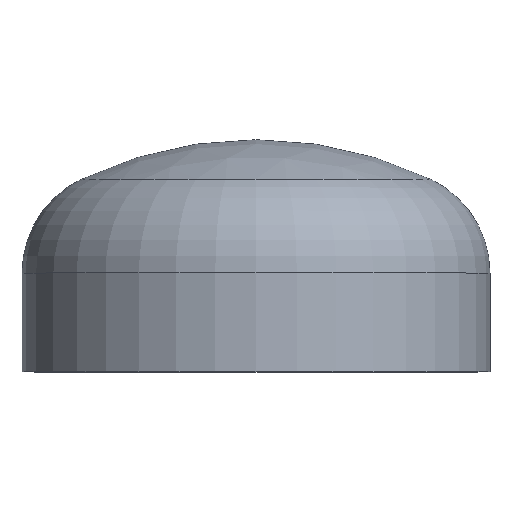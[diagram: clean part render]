
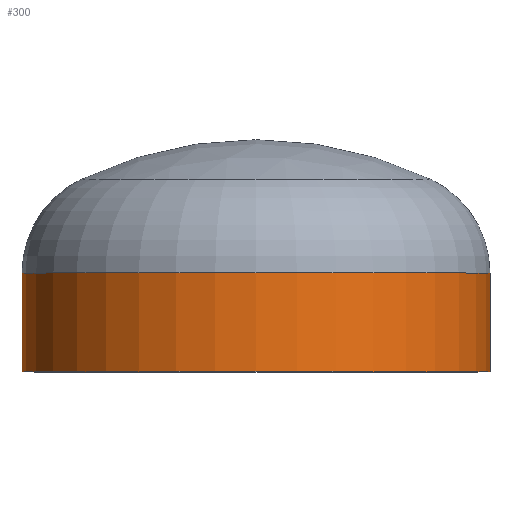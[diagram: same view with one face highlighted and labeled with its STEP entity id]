
A CAD part, top view. The second image highlights one B-rep face of the part: STEP entity #300.
In plain terms, the highlighted cylindrical face has radius 177.8 mm (diameter 355.6 mm), a partial arc.
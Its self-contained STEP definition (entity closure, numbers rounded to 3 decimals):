
#12 = LINE ( 'NONE', #268, #293 ) ;
#18 = AXIS2_PLACEMENT_3D ( 'NONE', #28, #196, #35 ) ;
#28 = CARTESIAN_POINT ( 'NONE',  ( 0., 0., 0. ) ) ;
#35 = DIRECTION ( 'NONE',  ( 1., 0., 0. ) ) ;
#45 = ORIENTED_EDGE ( 'NONE', *, *, #395, .F. ) ;
#51 = ORIENTED_EDGE ( 'NONE', *, *, #102, .T. ) ;
#60 = CARTESIAN_POINT ( 'NONE',  ( 177.8, 75., 0. ) ) ;
#83 = AXIS2_PLACEMENT_3D ( 'NONE', #330, #329, #327 ) ;
#96 = ORIENTED_EDGE ( 'NONE', *, *, #326, .T. ) ;
#102 = EDGE_CURVE ( 'NONE', #136, #302, #407, .T. ) ;
#108 = ORIENTED_EDGE ( 'NONE', *, *, #372, .F. ) ;
#135 = VERTEX_POINT ( 'NONE', #167 ) ;
#136 = VERTEX_POINT ( 'NONE', #60 ) ;
#140 = VERTEX_POINT ( 'NONE', #364 ) ;
#146 = DIRECTION ( 'NONE',  ( 0., -1., 0. ) ) ;
#161 = CARTESIAN_POINT ( 'NONE',  ( -177.8, 75., 0. ) ) ;
#164 = CIRCLE ( 'NONE', #367, 177.8 ) ;
#165 = EDGE_LOOP ( 'NONE', ( #51, #96, #45, #108 ) ) ;
#167 = CARTESIAN_POINT ( 'NONE',  ( -177.8, 0., 0. ) ) ;
#181 = DIRECTION ( 'NONE',  ( 0., -1., 0. ) ) ;
#196 = DIRECTION ( 'NONE',  ( 0., -1., 0. ) ) ;
#198 = CYLINDRICAL_SURFACE ( 'NONE', #18, 177.8 ) ;
#211 = FACE_OUTER_BOUND ( 'NONE', #165, .T. ) ;
#268 = CARTESIAN_POINT ( 'NONE',  ( 177.8, 0., 0. ) ) ;
#281 = DIRECTION ( 'NONE',  ( 0., -1., 0. ) ) ;
#288 = CARTESIAN_POINT ( 'NONE',  ( 0., 0., 0. ) ) ;
#293 = VECTOR ( 'NONE', #281, 1000. ) ;
#300 = ADVANCED_FACE ( 'NONE', ( #211 ), #198, .T. ) ;
#302 = VERTEX_POINT ( 'NONE', #161 ) ;
#313 = LINE ( 'NONE', #317, #375 ) ;
#317 = CARTESIAN_POINT ( 'NONE',  ( -177.8, 0., 0. ) ) ;
#319 = DIRECTION ( 'NONE',  ( 1., 0., 0. ) ) ;
#326 = EDGE_CURVE ( 'NONE', #302, #135, #313, .T. ) ;
#327 = DIRECTION ( 'NONE',  ( 1., 0., 0. ) ) ;
#329 = DIRECTION ( 'NONE',  ( 0., -1., 0. ) ) ;
#330 = CARTESIAN_POINT ( 'NONE',  ( 0., 75., 0. ) ) ;
#364 = CARTESIAN_POINT ( 'NONE',  ( 177.8, 0., 0. ) ) ;
#367 = AXIS2_PLACEMENT_3D ( 'NONE', #288, #146, #319 ) ;
#372 = EDGE_CURVE ( 'NONE', #136, #140, #12, .T. ) ;
#375 = VECTOR ( 'NONE', #181, 1000. ) ;
#395 = EDGE_CURVE ( 'NONE', #140, #135, #164, .T. ) ;
#407 = CIRCLE ( 'NONE', #83, 177.8 ) ;
